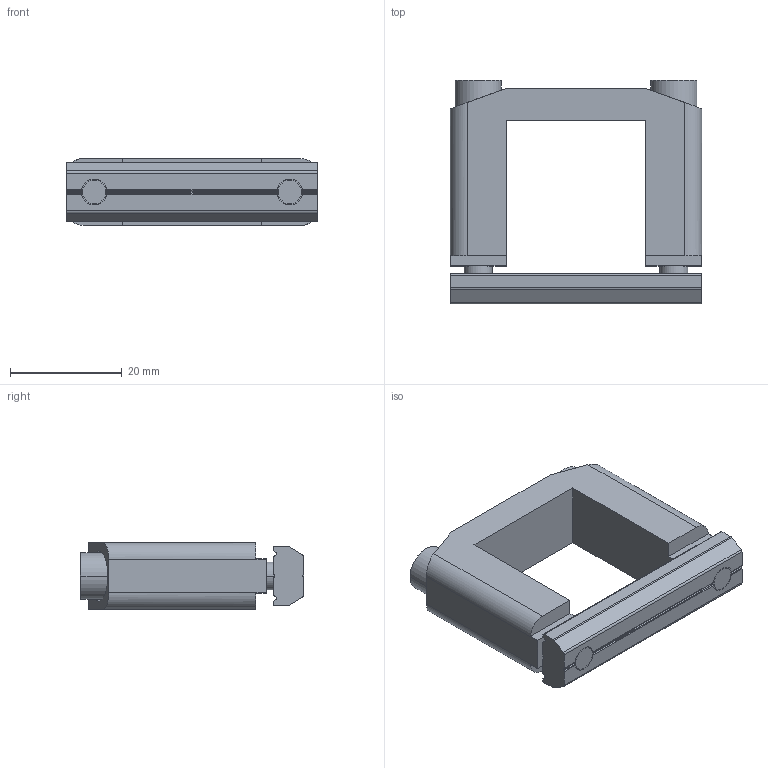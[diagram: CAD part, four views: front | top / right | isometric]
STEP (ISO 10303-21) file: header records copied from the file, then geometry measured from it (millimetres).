
FILE_DESCRIPTION (( 'STEP AP214' ), '1' );
FILE_NAME ('SMBB-2525T.STEP', '2022-12-08T06:29:48', ( '' ), ( '' ), 'SwSTEP 2.0', 'SolidWorks 2018', '' );
FILE_SCHEMA (( 'AUTOMOTIVE_DESIGN' ));
Length unit declared in the file: millimetre
Products named in the file (5): PTC-M5L35; SMBB-2525T; PTN-M5P35; SMBB-2525; PTS-M5
Assembly tree (6 placements, depth 2):
  SMBB-2525T
    SMBB-2525
    PTN-M5P35
    PTS-M5  x2
    PTC-M5L35  x2
Bounding box: 45 x 40 x 12 mm (x, y, z)
Volume: 11039.1 mm3; surface area: 8113.6 mm2
Topology: 6 solids, 6 shells, 463 faces, 1347 edges, 894 vertices
Faces by surface type: plane 390, cylinder 61, cone 12
Entity records: 9573 total; most frequent: CARTESIAN_POINT 1809, ORIENTED_EDGE 1626, DIRECTION 1577, EDGE_CURVE 813, VERTEX_POINT 540, AXIS2_PLACEMENT_3D 532, LINE 513, VECTOR 513
